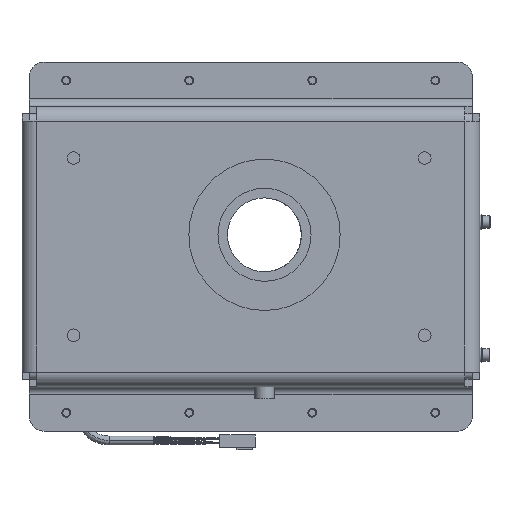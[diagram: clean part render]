
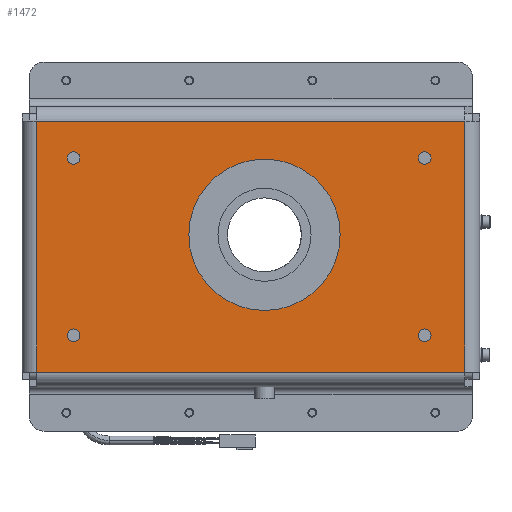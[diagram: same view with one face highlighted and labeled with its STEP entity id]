
A CAD part, front view. The second image highlights one B-rep face of the part: STEP entity #1472.
In plain terms, the highlighted planar face has unit normal (0, -1, 0).
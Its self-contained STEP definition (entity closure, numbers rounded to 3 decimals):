
#28 = AXIS2_PLACEMENT_3D ( 'NONE', #10207, #943, #4045 ) ;
#39 = DIRECTION ( 'NONE',  ( 0., 0., -1. ) ) ;
#91 = VERTEX_POINT ( 'NONE', #10604 ) ;
#159 = CIRCLE ( 'NONE', #12241, 4.25 ) ;
#255 = CIRCLE ( 'NONE', #28, 4.25 ) ;
#577 = EDGE_CURVE ( 'NONE', #9156, #10633, #255, .T. ) ;
#630 = VERTEX_POINT ( 'NONE', #3228 ) ;
#739 = DIRECTION ( 'NONE',  ( 1., 0., 0. ) ) ;
#850 = PLANE ( 'NONE',  #3086 ) ;
#943 = DIRECTION ( 'NONE',  ( 0., -1., 0. ) ) ;
#1123 = CIRCLE ( 'NONE', #1791, 4.25 ) ;
#1444 = DIRECTION ( 'NONE',  ( 0., -1., 0. ) ) ;
#1472 = ADVANCED_FACE ( 'NONE', ( #4720, #8858, #4216, #10181, #11182, #7367 ), #850, .T. ) ;
#1507 = ORIENTED_EDGE ( 'NONE', *, *, #7935, .F. ) ;
#1554 = AXIS2_PLACEMENT_3D ( 'NONE', #9676, #3402, #2381 ) ;
#1730 = AXIS2_PLACEMENT_3D ( 'NONE', #2442, #7678, #4519 ) ;
#1791 = AXIS2_PLACEMENT_3D ( 'NONE', #4555, #11516, #2333 ) ;
#1796 = ORIENTED_EDGE ( 'NONE', *, *, #8967, .F. ) ;
#1847 = VERTEX_POINT ( 'NONE', #2004 ) ;
#2004 = CARTESIAN_POINT ( 'NONE',  ( -115.297, -28.177, 45.998 ) ) ;
#2005 = CARTESIAN_POINT ( 'NONE',  ( -244.557, -28.177, 33.498 ) ) ;
#2175 = ORIENTED_EDGE ( 'NONE', *, *, #3351, .F. ) ;
#2255 = LINE ( 'NONE', #11502, #9577 ) ;
#2333 = DIRECTION ( 'NONE',  ( 0., 0., -1. ) ) ;
#2377 = EDGE_LOOP ( 'NONE', ( #12867, #7266 ) ) ;
#2381 = DIRECTION ( 'NONE',  ( 0., 0., -1. ) ) ;
#2442 = CARTESIAN_POINT ( 'NONE',  ( -115.297, -28.177, 97.248 ) ) ;
#2447 = EDGE_LOOP ( 'NONE', ( #10636, #4886 ) ) ;
#2502 = CARTESIAN_POINT ( 'NONE',  ( -244.557, -28.177, 29.248 ) ) ;
#2606 = CIRCLE ( 'NONE', #1730, 51.25 ) ;
#2715 = VERTEX_POINT ( 'NONE', #2005 ) ;
#2770 = CARTESIAN_POINT ( 'NONE',  ( -6.755, -28.177, 24.998 ) ) ;
#2789 = LINE ( 'NONE', #9824, #12885 ) ;
#2912 = CARTESIAN_POINT ( 'NONE',  ( 20.443, -28.177, 174.248 ) ) ;
#3086 = AXIS2_PLACEMENT_3D ( 'NONE', #8296, #4970, #7231 ) ;
#3228 = CARTESIAN_POINT ( 'NONE',  ( -269.557, -28.177, 4.248 ) ) ;
#3245 = DIRECTION ( 'NONE',  ( 0., 0., -1. ) ) ;
#3255 = EDGE_LOOP ( 'NONE', ( #1796, #11495 ) ) ;
#3351 = EDGE_CURVE ( 'NONE', #3954, #2715, #11078, .T. ) ;
#3402 = DIRECTION ( 'NONE',  ( 0., -1., 0. ) ) ;
#3686 = EDGE_CURVE ( 'NONE', #11637, #11647, #13082, .T. ) ;
#3724 = EDGE_CURVE ( 'NONE', #630, #12305, #2255, .T. ) ;
#3772 = ORIENTED_EDGE ( 'NONE', *, *, #9149, .F. ) ;
#3844 = EDGE_LOOP ( 'NONE', ( #12517, #3772, #9871, #7781 ) ) ;
#3954 = VERTEX_POINT ( 'NONE', #8236 ) ;
#4012 = CARTESIAN_POINT ( 'NONE',  ( -6.755, -28.177, 29.248 ) ) ;
#4045 = DIRECTION ( 'NONE',  ( 0., 0., -1. ) ) ;
#4113 = EDGE_LOOP ( 'NONE', ( #13224, #1507 ) ) ;
#4172 = DIRECTION ( 'NONE',  ( 0., 0., -1. ) ) ;
#4216 = FACE_BOUND ( 'NONE', #3255, .T. ) ;
#4519 = DIRECTION ( 'NONE',  ( 0., 0., -1. ) ) ;
#4555 = CARTESIAN_POINT ( 'NONE',  ( -244.557, -28.177, 149.248 ) ) ;
#4604 = ORIENTED_EDGE ( 'NONE', *, *, #9766, .F. ) ;
#4720 = FACE_BOUND ( 'NONE', #2377, .T. ) ;
#4886 = ORIENTED_EDGE ( 'NONE', *, *, #5411, .F. ) ;
#4970 = DIRECTION ( 'NONE',  ( 0., -1., 0. ) ) ;
#5196 = CARTESIAN_POINT ( 'NONE',  ( -115.297, -28.177, 148.498 ) ) ;
#5215 = CIRCLE ( 'NONE', #11023, 4.25 ) ;
#5327 = CIRCLE ( 'NONE', #10493, 4.25 ) ;
#5411 = EDGE_CURVE ( 'NONE', #7843, #12102, #1123, .T. ) ;
#5646 = CIRCLE ( 'NONE', #11901, 51.25 ) ;
#6226 = DIRECTION ( 'NONE',  ( 0., -1., 0. ) ) ;
#6456 = CARTESIAN_POINT ( 'NONE',  ( -6.755, -28.177, 29.248 ) ) ;
#6536 = CIRCLE ( 'NONE', #1554, 4.25 ) ;
#6593 = DIRECTION ( 'NONE',  ( 0., 0., -1. ) ) ;
#7231 = DIRECTION ( 'NONE',  ( 0., 0., -1. ) ) ;
#7266 = ORIENTED_EDGE ( 'NONE', *, *, #10720, .T. ) ;
#7367 = FACE_OUTER_BOUND ( 'NONE', #3844, .T. ) ;
#7676 = AXIS2_PLACEMENT_3D ( 'NONE', #2502, #10795, #10591 ) ;
#7678 = DIRECTION ( 'NONE',  ( 0., 1., 0. ) ) ;
#7781 = ORIENTED_EDGE ( 'NONE', *, *, #10802, .F. ) ;
#7817 = CIRCLE ( 'NONE', #9745, 4.25 ) ;
#7843 = VERTEX_POINT ( 'NONE', #12309 ) ;
#7907 = CARTESIAN_POINT ( 'NONE',  ( -269.557, -28.177, 174.248 ) ) ;
#7935 = EDGE_CURVE ( 'NONE', #10633, #9156, #6536, .T. ) ;
#8236 = CARTESIAN_POINT ( 'NONE',  ( -244.557, -28.177, 24.998 ) ) ;
#8296 = CARTESIAN_POINT ( 'NONE',  ( -269.557, -28.177, 174.248 ) ) ;
#8785 = CARTESIAN_POINT ( 'NONE',  ( -115.297, -28.177, 97.248 ) ) ;
#8858 = FACE_BOUND ( 'NONE', #2447, .T. ) ;
#8967 = EDGE_CURVE ( 'NONE', #10878, #91, #5327, .T. ) ;
#9140 = CARTESIAN_POINT ( 'NONE',  ( 20.443, -28.177, 4.248 ) ) ;
#9149 = EDGE_CURVE ( 'NONE', #11647, #630, #2789, .T. ) ;
#9156 = VERTEX_POINT ( 'NONE', #13130 ) ;
#9201 = CARTESIAN_POINT ( 'NONE',  ( -244.557, -28.177, 149.248 ) ) ;
#9290 = DIRECTION ( 'NONE',  ( 0., -1., 0. ) ) ;
#9577 = VECTOR ( 'NONE', #10557, 1000. ) ;
#9676 = CARTESIAN_POINT ( 'NONE',  ( -6.755, -28.177, 149.248 ) ) ;
#9745 = AXIS2_PLACEMENT_3D ( 'NONE', #9201, #6226, #3245 ) ;
#9766 = EDGE_CURVE ( 'NONE', #2715, #3954, #159, .T. ) ;
#9824 = CARTESIAN_POINT ( 'NONE',  ( -269.557, -28.177, 4.248 ) ) ;
#9871 = ORIENTED_EDGE ( 'NONE', *, *, #3686, .F. ) ;
#10000 = CARTESIAN_POINT ( 'NONE',  ( -269.557, -28.177, 174.248 ) ) ;
#10034 = DIRECTION ( 'NONE',  ( 0., 0., -1. ) ) ;
#10181 = FACE_BOUND ( 'NONE', #4113, .T. ) ;
#10207 = CARTESIAN_POINT ( 'NONE',  ( -6.755, -28.177, 149.248 ) ) ;
#10465 = CARTESIAN_POINT ( 'NONE',  ( -244.557, -28.177, 29.248 ) ) ;
#10493 = AXIS2_PLACEMENT_3D ( 'NONE', #6456, #1444, #6593 ) ;
#10557 = DIRECTION ( 'NONE',  ( 0., 0., 1. ) ) ;
#10591 = DIRECTION ( 'NONE',  ( 0., 0., -1. ) ) ;
#10604 = CARTESIAN_POINT ( 'NONE',  ( -6.755, -28.177, 33.498 ) ) ;
#10633 = VERTEX_POINT ( 'NONE', #11166 ) ;
#10636 = ORIENTED_EDGE ( 'NONE', *, *, #12471, .F. ) ;
#10720 = EDGE_CURVE ( 'NONE', #12114, #1847, #2606, .T. ) ;
#10795 = DIRECTION ( 'NONE',  ( 0., -1., 0. ) ) ;
#10802 = EDGE_CURVE ( 'NONE', #12305, #11637, #12218, .T. ) ;
#10878 = VERTEX_POINT ( 'NONE', #2770 ) ;
#11023 = AXIS2_PLACEMENT_3D ( 'NONE', #4012, #9290, #39 ) ;
#11078 = CIRCLE ( 'NONE', #7676, 4.25 ) ;
#11091 = DIRECTION ( 'NONE',  ( -1., 0., 0. ) ) ;
#11166 = CARTESIAN_POINT ( 'NONE',  ( -6.755, -28.177, 153.498 ) ) ;
#11173 = EDGE_CURVE ( 'NONE', #1847, #12114, #5646, .T. ) ;
#11182 = FACE_BOUND ( 'NONE', #12536, .T. ) ;
#11415 = EDGE_CURVE ( 'NONE', #91, #10878, #5215, .T. ) ;
#11495 = ORIENTED_EDGE ( 'NONE', *, *, #11415, .F. ) ;
#11502 = CARTESIAN_POINT ( 'NONE',  ( -269.557, -28.177, 174.248 ) ) ;
#11516 = DIRECTION ( 'NONE',  ( 0., -1., 0. ) ) ;
#11548 = DIRECTION ( 'NONE',  ( 0., -1., 0. ) ) ;
#11637 = VERTEX_POINT ( 'NONE', #2912 ) ;
#11647 = VERTEX_POINT ( 'NONE', #9140 ) ;
#11901 = AXIS2_PLACEMENT_3D ( 'NONE', #8785, #12895, #12960 ) ;
#11959 = VECTOR ( 'NONE', #10034, 1000. ) ;
#12092 = VECTOR ( 'NONE', #739, 1000. ) ;
#12102 = VERTEX_POINT ( 'NONE', #13053 ) ;
#12114 = VERTEX_POINT ( 'NONE', #5196 ) ;
#12218 = LINE ( 'NONE', #10000, #12092 ) ;
#12241 = AXIS2_PLACEMENT_3D ( 'NONE', #10465, #11548, #4172 ) ;
#12305 = VERTEX_POINT ( 'NONE', #7907 ) ;
#12309 = CARTESIAN_POINT ( 'NONE',  ( -244.557, -28.177, 153.498 ) ) ;
#12471 = EDGE_CURVE ( 'NONE', #12102, #7843, #7817, .T. ) ;
#12517 = ORIENTED_EDGE ( 'NONE', *, *, #3724, .F. ) ;
#12536 = EDGE_LOOP ( 'NONE', ( #2175, #4604 ) ) ;
#12867 = ORIENTED_EDGE ( 'NONE', *, *, #11173, .T. ) ;
#12885 = VECTOR ( 'NONE', #11091, 1000. ) ;
#12895 = DIRECTION ( 'NONE',  ( 0., 1., 0. ) ) ;
#12960 = DIRECTION ( 'NONE',  ( 0., 0., -1. ) ) ;
#13053 = CARTESIAN_POINT ( 'NONE',  ( -244.557, -28.177, 144.998 ) ) ;
#13082 = LINE ( 'NONE', #13205, #11959 ) ;
#13130 = CARTESIAN_POINT ( 'NONE',  ( -6.755, -28.177, 144.998 ) ) ;
#13205 = CARTESIAN_POINT ( 'NONE',  ( 20.443, -28.177, 174.248 ) ) ;
#13224 = ORIENTED_EDGE ( 'NONE', *, *, #577, .F. ) ;
